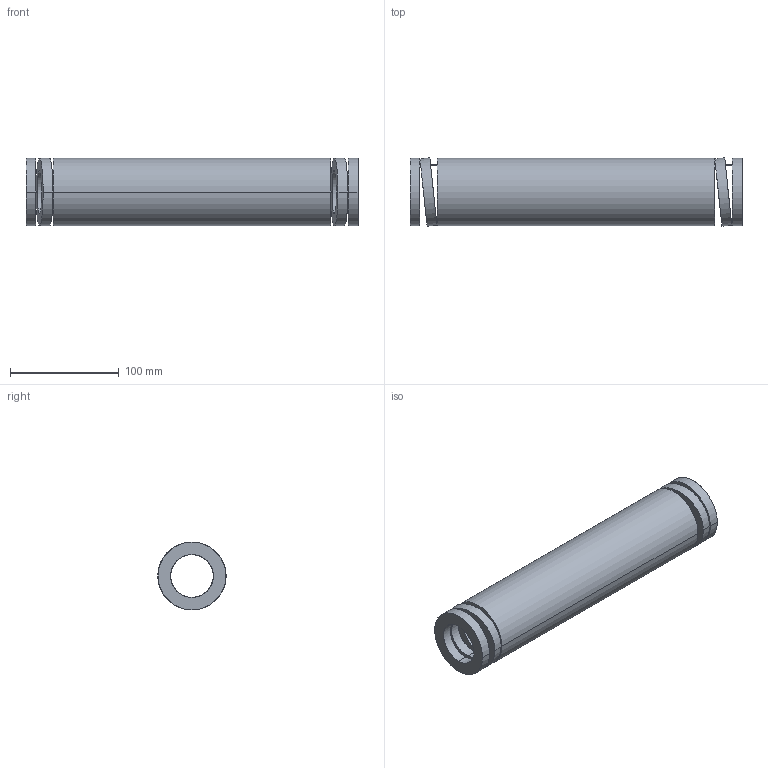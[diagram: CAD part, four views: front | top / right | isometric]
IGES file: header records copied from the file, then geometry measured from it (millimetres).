
Start section: START RECORD GO HERE.
Global section: file name: 392-B63-305.igs; native system: DASSAULT SYSTEMES CATIA V5 R20 - www.3ds.com; preprocessor: CATIA Version 5 Release 20 ; author: Utente; organization: NB04-ASUS; date: 20210813.143855; units: millimetre
Bounding box: 305 x 62.81 x 62.2 mm (x, y, z)
Surface area: 111117.3 mm2 (no closed solid volume)
Topology: 0 solids, 0 shells, 38 faces, 184 edges, 184 vertices
Faces by surface type: revolution 28, plane 10
